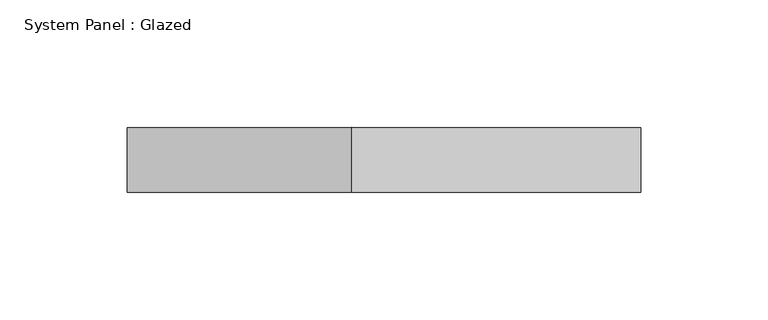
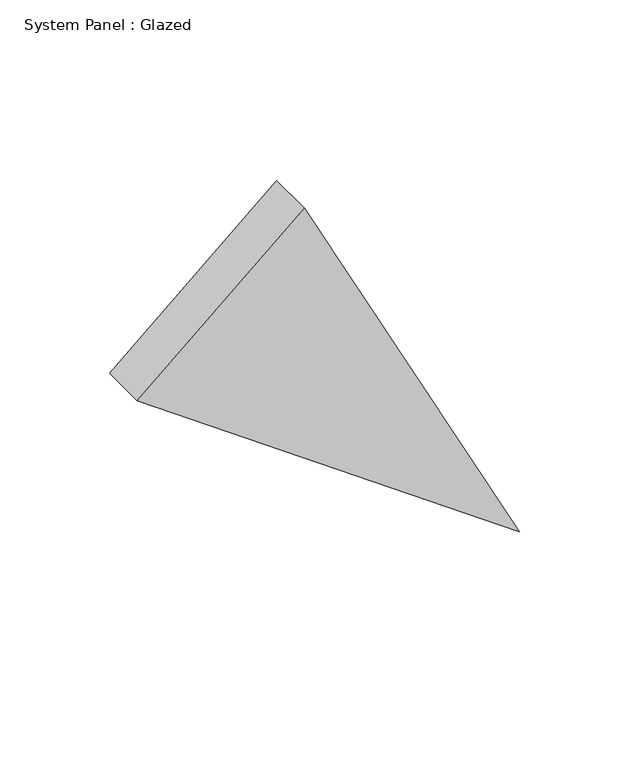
"""IFC4 building model written with IfcOpenShell, lengths in millimetres: plate geometry, System Panel : Glazed."""

import ifcopenshell
import ifcopenshell.guid

model = None  # the IFC model being written
_history = None  # IfcOwnerHistory: only IFC2X3 demands one
_inside = {}  # id of a spatial element -> (the spatial element, [elements in it])
_under = {}  # id of a project, library or spatial element -> (it, [spatial elements below it])
_declared = {}  # id of a project -> (the project, [libraries it declares])
_typed = {}  # id of a type object -> (the type object, [elements of that type])
_made_of = {}  # id of a material, layer set ... -> (it, [elements and type objects made of it])


def new_model(schema):
    """Start an empty IFC model of exactly this schema.

    Asked for "IFC4X3", IfcOpenShell would pick the latest addendum, in which some entities
    have other attributes; the version numbers below select the first issue.
    IFC2X3 requires an IfcOwnerHistory on every rooted entity: one is made here for all.
    """
    global model, _history
    if schema == "IFC4X3":
        model = ifcopenshell.file(schema_version=(4, 3, 0, 0))
    else:
        model = ifcopenshell.file(schema=schema)
    _inside.clear()
    _under.clear()
    _declared.clear()
    _typed.clear()
    _made_of.clear()
    _history = None
    if model.schema == "IFC2X3":
        org = make("IfcOrganization", Name="unknown")
        user = make(
            "IfcPersonAndOrganization",
            ThePerson=make("IfcPerson", FamilyName="unknown"),
            TheOrganization=org,
        )
        app = make(
            "IfcApplication",
            ApplicationDeveloper=org,
            Version="unknown",
            ApplicationFullName="unknown",
            ApplicationIdentifier="unknown",
        )
        _history = make(
            "IfcOwnerHistory",
            OwningUser=user,
            OwningApplication=app,
            ChangeAction="ADDED",
            CreationDate=0,
        )
    return model


def make(cls, **values):
    """One entity of the class cls with the attributes given. An attribute that is None is left unset."""
    return model.create_entity(
        cls, **{name: value for name, value in values.items() if value is not None}
    )


def rooted(cls, **values):
    """An entity with a GlobalId (a new one), such as an element, a storey or a relation."""
    return make(cls, GlobalId=ifcopenshell.guid.new(), OwnerHistory=_history, **values)


def si_unit(unit_type, name, prefix=None):
    """IfcSIUnit, for example si_unit("LENGTHUNIT", "METRE", prefix="MILLI")."""
    return make("IfcSIUnit", UnitType=unit_type, Prefix=prefix, Name=name)


def assignment(units):
    """IfcUnitAssignment: the units of a project."""
    return None if units is None else make("IfcUnitAssignment", Units=units)


def point(xyz):
    """IfcCartesianPoint."""
    return None if xyz is None else make("IfcCartesianPoint", Coordinates=xyz)


def direction(xyz):
    """IfcDirection."""
    return None if xyz is None else make("IfcDirection", DirectionRatios=xyz)


def frame(location, z_axis=None, x_axis=None):
    """IfcAxis2Placement3D, a coordinate frame: its origin and axes. An axis left out is left unset."""
    return make(
        "IfcAxis2Placement3D",
        Location=point(location),
        Axis=direction(z_axis),
        RefDirection=direction(x_axis),
    )


def origin():
    """The frame at (0, 0, 0) with its axes left unset."""
    return frame((0.0, 0.0, 0.0))


def place(relative_to, where):
    """IfcLocalPlacement: puts the frame where relative to a parent placement (None: the world)."""
    return make(
        "IfcLocalPlacement", PlacementRelTo=relative_to, RelativePlacement=where
    )


def context(
    kind, dimensions, precision=None, world=None, true_north=None, identifier=None
):
    """IfcGeometricRepresentationContext, for example the 3D "Model" context."""
    return make(
        "IfcGeometricRepresentationContext",
        ContextIdentifier=identifier,
        ContextType=kind,
        CoordinateSpaceDimension=dimensions,
        Precision=precision,
        WorldCoordinateSystem=world,
        TrueNorth=true_north,
    )


def project(units=None, contexts=None):
    """IfcProject with its units and contexts."""
    return rooted(
        "IfcProject",
        Name="project",
        RepresentationContexts=contexts,
        UnitsInContext=assignment(units),
    )


def spatial(cls, under=None, at=None, **own):
    """A site, building, storey or space (cls), placed at a placement, below another one or the project."""
    s = rooted(cls, ObjectPlacement=at, **own)
    if under is not None:
        _under.setdefault(under.id(), (under, []))[1].append(s)
    return s


def polyline(points):
    """IfcPolyline through the points."""
    return make("IfcPolyline", Points=[point(p) for p in points])


def outline(outer, holes=None, kind="AREA"):
    """IfcArbitraryClosedProfileDef: a profile drawn as a closed curve; with holes, ...WithVoids."""
    if holes is None:
        return make("IfcArbitraryClosedProfileDef", ProfileType=kind, OuterCurve=outer)
    return make(
        "IfcArbitraryProfileDefWithVoids",
        ProfileType=kind,
        OuterCurve=outer,
        InnerCurves=holes,
    )


def extrude(swept, where, along, depth):
    """IfcExtrudedAreaSolid: the profile swept, set in the frame where, extruded along a direction by depth."""
    return make(
        "IfcExtrudedAreaSolid",
        SweptArea=swept,
        Position=where,
        ExtrudedDirection=direction(along),
        Depth=depth,
    )


def shape(context_of_items, identifier, shape_type, items):
    """IfcShapeRepresentation: the items that make up one representation, for example the "Body"."""
    return make(
        "IfcShapeRepresentation",
        ContextOfItems=context_of_items,
        RepresentationIdentifier=identifier,
        RepresentationType=shape_type,
        Items=items,
    )


def source(mapping_origin, context_of_items, identifier, shape_type, items):
    """IfcRepresentationMap: a shape defined once, which mapped items show again and again."""
    return make(
        "IfcRepresentationMap",
        MappingOrigin=mapping_origin,
        MappedRepresentation=shape(context_of_items, identifier, shape_type, items),
    )


def transform(
    local_origin,
    x_axis=None,
    y_axis=None,
    z_axis=None,
    scale=None,
    scale2=None,
    scale3=None,
    uniform=True,
):
    """IfcCartesianTransformationOperator3D, or its non-uniform kind. x_axis, y_axis, z_axis: its Axis1, 2, 3."""
    if uniform:
        return make(
            "IfcCartesianTransformationOperator3D",
            Axis1=direction(x_axis),
            Axis2=direction(y_axis),
            LocalOrigin=point(local_origin),
            Scale=scale,
            Axis3=direction(z_axis),
        )
    return make(
        "IfcCartesianTransformationOperator3DnonUniform",
        Axis1=direction(x_axis),
        Axis2=direction(y_axis),
        LocalOrigin=point(local_origin),
        Scale=scale,
        Axis3=direction(z_axis),
        Scale2=scale2,
        Scale3=scale3,
    )


def mapped(mapping_source, mapping_target):
    """IfcMappedItem: shows the shape of a source again, moved by a transform."""
    return make(
        "IfcMappedItem", MappingSource=mapping_source, MappingTarget=mapping_target
    )


def made_of(thing, what):
    """Note that an element or type object is made of a material, layer set ...; save() writes the relation."""
    if what is not None:
        _made_of.setdefault(what.id(), (what, []))[1].append(thing)
    return thing


def element(
    cls,
    number,
    at=None,
    inside=None,
    cuts=None,
    type_object=None,
    material=None,
    context=None,
    identifier="Body",
    shape_type=None,
    held_by="IfcProductDefinitionShape",
    body=None,
    shapes=None,
    **own,
):
    """One element of the class cls, such as IfcWall. Its Tag is "e" and its number.

    at: its placement. inside: the storey or other place that contains it. cuts: it is an
    opening in that element (IfcRelVoidsElement). A single representation is given by context,
    identifier, shape_type and body (its items); several are given by shapes. held_by: the class
    of the entity that holds the representations. save() writes the other relations.
    """
    e = rooted(cls, Tag="e%d" % number, ObjectPlacement=at, **own)
    if body is not None:
        shapes = [shape(context, identifier, shape_type, body)]
    if shapes is not None:
        e.Representation = make(held_by, Representations=shapes)
    if inside is not None:
        _inside.setdefault(inside.id(), (inside, []))[1].append(e)
    if cuts is not None:
        rooted(
            "IfcRelVoidsElement", RelatingBuildingElement=cuts, RelatedOpeningElement=e
        )
    if type_object is not None:
        _typed.setdefault(type_object.id(), (type_object, []))[1].append(e)
    return made_of(e, material)


def aggregate(whole, parts):
    """IfcRelAggregates: a whole, such as a stair, and the parts it consists of."""
    return rooted("IfcRelAggregates", RelatingObject=whole, RelatedObjects=parts)


def save(model, path):
    """Write the relations noted so far, then the file.

    IfcRelAggregates (storeys below a building ...), IfcRelContainedInSpatialStructure (elements
    in a storey), IfcRelDefinesByType, IfcRelAssociatesMaterial and IfcRelDeclares: one each for
    every whole, place, type object, material and project.
    """
    for whole, parts in _under.values():
        aggregate(whole, parts)
    for where, things in _inside.values():
        rooted(
            "IfcRelContainedInSpatialStructure",
            RelatedElements=things,
            RelatingStructure=where,
        )
    for kind, things in _typed.values():
        rooted("IfcRelDefinesByType", RelatedObjects=things, RelatingType=kind)
    for what, things in _made_of.values():
        rooted("IfcRelAssociatesMaterial", RelatedObjects=things, RelatingMaterial=what)
    for by, libraries in _declared.values():
        rooted("IfcRelDeclares", RelatingContext=by, RelatedDefinitions=libraries)
    model.write(path)


def system_panel_glazed_fecaa5d6(model_context):
    return source(origin(), model_context, "Body", "SweptSolid", [
        extrude(outline(polyline([(143.4805418, -100.5975988), (0.0, 100.5975988), (219.6771406, -12.5753984), (143.4805418, -100.5975988)])), frame((0.0, 19.05, 0.0), z_axis=(0.0, 1.0, 0.0), x_axis=(0.0, 0.0, 1.0)), (0.0, 0.0, 1.0), 25.4),
    ])


if __name__ == "__main__":
    model = new_model("IFC4")
    model_context = context("Model", 3, world=origin())
    ifc_project = project(units=[si_unit("LENGTHUNIT", "METRE", prefix="MILLI")], contexts=[model_context])
    site = spatial("IfcSite", under=ifc_project)
    building = spatial("IfcBuilding", under=site)
    placement = place(None, origin())
    system_panel_glazed_shape = system_panel_glazed_fecaa5d6(model_context)
    element("IfcPlate", 1, ObjectType="System Panel : Glazed", at=placement, inside=building, context=model_context, shape_type="MappedRepresentation", body=[
        mapped(system_panel_glazed_shape, transform((0.0, 0.0, 0.0), x_axis=(1.0, 0.0, 0.0), y_axis=(0.0, 1.0, 0.0), z_axis=(0.0, 0.0, 1.0))),
    ])
    save(model, "model.ifc")
